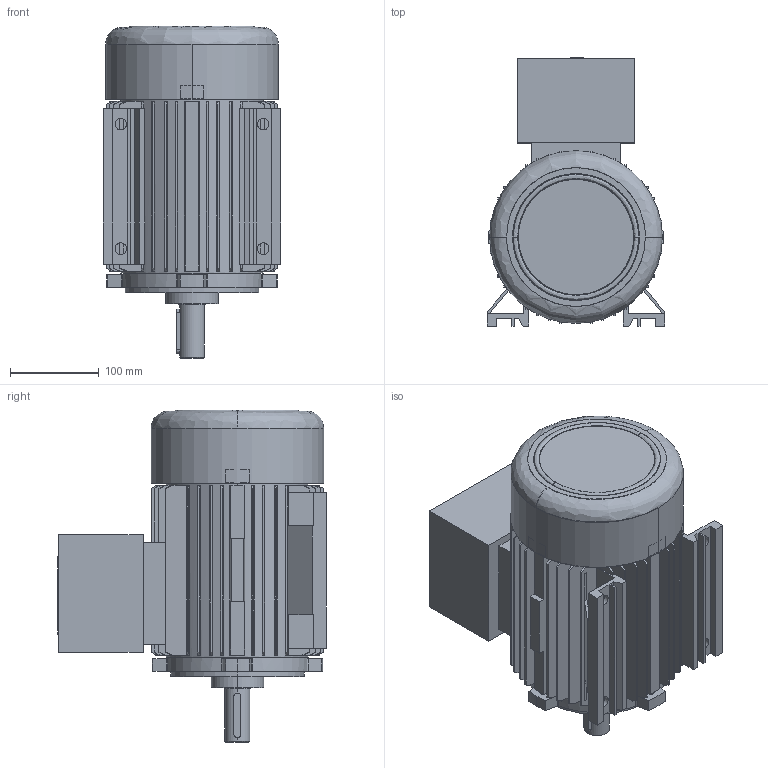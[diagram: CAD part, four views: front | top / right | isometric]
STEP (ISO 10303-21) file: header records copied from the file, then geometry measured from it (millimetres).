
FILE_DESCRIPTION (( 'STEP AP214' ), '1' );
FILE_NAME ('20.18393-A 5AT 100 B3 OG Exd.STEP', '2018-05-08T07:39:39', ( '' ), ( '' ), 'SwSTEP 2.0', 'SolidWorks 2017', '' );
FILE_SCHEMA (( 'AUTOMOTIVE_DESIGN' ));
Length unit declared in the file: millimetre
Products named in the file (1): 20.18393-A 5AT 100 B3 OG Exd
Bounding box: 200 x 302 x 373.3 mm (x, y, z)
Volume: 4737061.9 mm3; surface area: 882159.9 mm2
Topology: 3 solids, 3 shells, 715 faces, 1865 edges, 1214 vertices
Faces by surface type: plane 413, cylinder 149, cone 135, bspline 18
Entity records: 23951 total; most frequent: CARTESIAN_POINT 6339, ORIENTED_EDGE 3698, DIRECTION 3575, EDGE_CURVE 1849, AXIS2_PLACEMENT_3D 1270, VERTEX_POINT 1214, LINE 1035, VECTOR 1035
